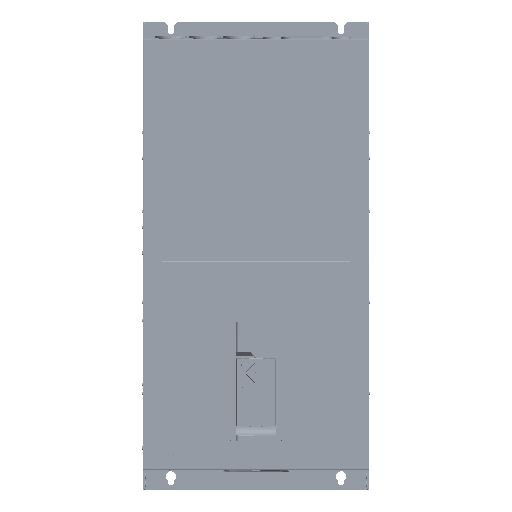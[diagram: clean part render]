
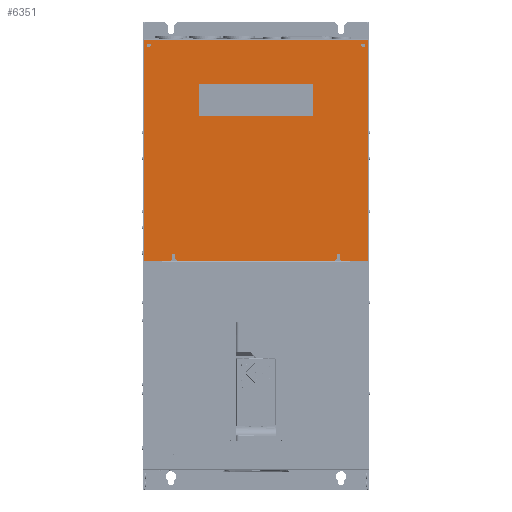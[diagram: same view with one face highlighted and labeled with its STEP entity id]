
A CAD part, top view. The second image highlights one B-rep face of the part: STEP entity #6351.
In plain terms, the highlighted planar face has unit normal (0, 0, 1).
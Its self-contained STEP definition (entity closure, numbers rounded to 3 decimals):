
#6351=ADVANCED_FACE('',(#34830,#34832,#34834,#34836),#34838,.F.);
#34830=FACE_BOUND('',#34831,.T.);
#34831=EDGE_LOOP('',(#63700,#63701,#63702,#63703,#63704,#63705,#63706,#63707,#63708,
#63709,#63710,#63711,#63712,#63713,#63714,#63715));
#34832=FACE_BOUND('',#34833,.T.);
#34833=EDGE_LOOP('',(#63716,#63717,#63718,#63719));
#34834=FACE_BOUND('',#34835,.T.);
#34835=EDGE_LOOP('',(#63720,#63721,#63722,#63723));
#34836=FACE_BOUND('',#34837,.T.);
#34837=EDGE_LOOP('',(#63724,#63725,#63726,#63727));
#34838=PLANE('',#34839);
#34839=AXIS2_PLACEMENT_3D('',#34840,#34841,#34842);
#34840=CARTESIAN_POINT('',(0.,186.75,345.5));
#34841=DIRECTION('',(0.,0.,-1.));
#34842=DIRECTION('',(-1.,0.,0.));
#63700=ORIENTED_EDGE('',*,*,#84925,.T.);
#63701=ORIENTED_EDGE('',*,*,#84894,.T.);
#63702=ORIENTED_EDGE('',*,*,#84898,.T.);
#63703=ORIENTED_EDGE('',*,*,#84890,.T.);
#63704=ORIENTED_EDGE('',*,*,#84926,.T.);
#63705=ORIENTED_EDGE('',*,*,#84876,.T.);
#63706=ORIENTED_EDGE('',*,*,#84927,.T.);
#63707=ORIENTED_EDGE('',*,*,#84928,.T.);
#63708=ORIENTED_EDGE('',*,*,#84878,.T.);
#63709=ORIENTED_EDGE('',*,*,#84871,.T.);
#63710=ORIENTED_EDGE('',*,*,#84852,.T.);
#63711=ORIENTED_EDGE('',*,*,#84840,.T.);
#63712=ORIENTED_EDGE('',*,*,#84884,.T.);
#63713=ORIENTED_EDGE('',*,*,#84929,.T.);
#63714=ORIENTED_EDGE('',*,*,#84930,.T.);
#63715=ORIENTED_EDGE('',*,*,#84888,.T.);
#63716=ORIENTED_EDGE('',*,*,#84931,.F.);
#63717=ORIENTED_EDGE('',*,*,#84932,.F.);
#63718=ORIENTED_EDGE('',*,*,#84921,.F.);
#63719=ORIENTED_EDGE('',*,*,#84933,.F.);
#63720=ORIENTED_EDGE('',*,*,#84934,.T.);
#63721=ORIENTED_EDGE('',*,*,#84919,.T.);
#63722=ORIENTED_EDGE('',*,*,#84935,.T.);
#63723=ORIENTED_EDGE('',*,*,#84815,.T.);
#63724=ORIENTED_EDGE('',*,*,#84936,.T.);
#63725=ORIENTED_EDGE('',*,*,#84902,.T.);
#63726=ORIENTED_EDGE('',*,*,#84937,.T.);
#63727=ORIENTED_EDGE('',*,*,#84819,.T.);
#84815=EDGE_CURVE('',#102001,#102006,#102008,.T.);
#84819=EDGE_CURVE('',#102009,#102014,#102016,.T.);
#84840=EDGE_CURVE('',#102049,#102051,#102053,.T.);
#84852=EDGE_CURVE('',#102073,#102049,#102074,.T.);
#84871=EDGE_CURVE('',#102105,#102073,#102106,.T.);
#84876=EDGE_CURVE('',#102114,#102112,#102115,.T.);
#84878=EDGE_CURVE('',#102117,#102105,#102118,.T.);
#84884=EDGE_CURVE('',#102051,#102127,#102129,.T.);
#84888=EDGE_CURVE('',#102136,#102134,#102137,.T.);
#84890=EDGE_CURVE('',#102139,#102140,#102141,.T.);
#84894=EDGE_CURVE('',#102147,#102148,#102149,.T.);
#84898=EDGE_CURVE('',#102148,#102139,#102155,.T.);
#84902=EDGE_CURVE('',#102162,#102160,#102163,.T.);
#84919=EDGE_CURVE('',#102187,#102185,#102188,.T.);
#84921=EDGE_CURVE('',#102190,#102191,#102192,.T.);
#84925=EDGE_CURVE('',#102134,#102147,#102198,.T.);
#84926=EDGE_CURVE('',#102140,#102114,#102199,.T.);
#84927=EDGE_CURVE('',#102112,#102200,#102201,.T.);
#84928=EDGE_CURVE('',#102200,#102117,#102202,.T.);
#84929=EDGE_CURVE('',#102127,#102203,#102204,.T.);
#84930=EDGE_CURVE('',#102203,#102136,#102205,.T.);
#84931=EDGE_CURVE('',#102206,#102207,#102208,.T.);
#84932=EDGE_CURVE('',#102191,#102206,#102209,.T.);
#84933=EDGE_CURVE('',#102207,#102190,#102210,.T.);
#84934=EDGE_CURVE('',#102006,#102187,#102211,.T.);
#84935=EDGE_CURVE('',#102185,#102001,#102212,.T.);
#84936=EDGE_CURVE('',#102014,#102162,#102213,.T.);
#84937=EDGE_CURVE('',#102160,#102009,#102214,.T.);
#102001=VERTEX_POINT('',#139035);
#102006=VERTEX_POINT('',#139045);
#102008=CIRCLE('',#139049,2.5);
#102009=VERTEX_POINT('',#139053);
#102014=VERTEX_POINT('',#139063);
#102016=CIRCLE('',#139067,2.5);
#102049=VERTEX_POINT('',#139141);
#102051=VERTEX_POINT('',#139145);
#102053=LINE('',#139150,#139151);
#102073=VERTEX_POINT('',#139194);
#102074=LINE('',#139195,#139196);
#102105=VERTEX_POINT('',#139270);
#102106=LINE('',#139271,#139272);
#102112=VERTEX_POINT('',#139287);
#102114=VERTEX_POINT('',#139291);
#102115=CIRCLE('',#139292,2.75);
#102117=VERTEX_POINT('',#139299);
#102118=LINE('',#139300,#139301);
#102127=VERTEX_POINT('',#139319);
#102129=LINE('',#139323,#139324);
#102134=VERTEX_POINT('',#139335);
#102136=VERTEX_POINT('',#139339);
#102137=CIRCLE('',#139340,2.75);
#102139=VERTEX_POINT('',#139347);
#102140=VERTEX_POINT('',#139348);
#102141=LINE('',#139349,#139350);
#102147=VERTEX_POINT('',#139363);
#102148=VERTEX_POINT('',#139364);
#102149=LINE('',#139365,#139366);
#102155=LINE('',#139379,#139380);
#102160=VERTEX_POINT('',#139391);
#102162=VERTEX_POINT('',#139395);
#102163=CIRCLE('',#139396,2.5);
#102185=VERTEX_POINT('',#139452);
#102187=VERTEX_POINT('',#139456);
#102188=CIRCLE('',#139457,2.5);
#102190=VERTEX_POINT('',#139464);
#102191=VERTEX_POINT('',#139465);
#102192=LINE('',#139466,#139467);
#102198=LINE('',#139480,#139481);
#102199=LINE('',#139483,#139484);
#102200=VERTEX_POINT('',#139486);
#102201=LINE('',#139487,#139488);
#102202=LINE('',#139490,#139491);
#102203=VERTEX_POINT('',#139493);
#102204=LINE('',#139494,#139495);
#102205=LINE('',#139497,#139498);
#102206=VERTEX_POINT('',#139500);
#102207=VERTEX_POINT('',#139501);
#102208=LINE('',#139502,#139503);
#102209=LINE('',#139505,#139506);
#102210=LINE('',#139508,#139509);
#102211=LINE('',#139511,#139512);
#102212=LINE('',#139514,#139515);
#102213=LINE('',#139517,#139518);
#102214=LINE('',#139520,#139521);
#139035=CARTESIAN_POINT('',(-189.75,368.,345.5));
#139045=CARTESIAN_POINT('',(-189.75,373.,345.5));
#139049=AXIS2_PLACEMENT_3D('',#139050,#139051,#139052);
#139050=CARTESIAN_POINT('',(-189.75,370.5,345.5));
#139051=DIRECTION('',(0.,0.,-1.));
#139052=DIRECTION('',(0.,-1.,0.));
#139053=CARTESIAN_POINT('',(187.75,368.,345.5));
#139063=CARTESIAN_POINT('',(187.75,373.,345.5));
#139067=AXIS2_PLACEMENT_3D('',#139068,#139069,#139070);
#139068=CARTESIAN_POINT('',(187.75,370.5,345.5));
#139069=DIRECTION('',(0.,0.,-1.));
#139070=DIRECTION('',(0.,-1.,0.));
#139141=CARTESIAN_POINT('',(-198.3,380.8,345.5));
#139145=CARTESIAN_POINT('',(-198.3,-9.,345.5));
#139150=CARTESIAN_POINT('',(-198.3,380.8,345.5));
#139151=VECTOR('',#139152,1.);
#139152=DIRECTION('',(0.,-1.,0.));
#139194=CARTESIAN_POINT('',(198.3,380.8,345.5));
#139195=CARTESIAN_POINT('',(198.3,380.8,345.5));
#139196=VECTOR('',#139197,1.);
#139197=DIRECTION('',(-1.,0.,0.));
#139270=CARTESIAN_POINT('',(198.3,-9.,345.5));
#139271=CARTESIAN_POINT('',(198.3,-9.,345.5));
#139272=VECTOR('',#139273,1.);
#139273=DIRECTION('',(0.,1.,0.));
#139287=CARTESIAN_POINT('',(147.75,1.,345.5));
#139291=CARTESIAN_POINT('',(142.25,1.,345.5));
#139292=AXIS2_PLACEMENT_3D('',#139293,#139294,#139295);
#139293=CARTESIAN_POINT('',(145.,1.,345.5));
#139294=DIRECTION('',(0.,0.,-1.));
#139295=DIRECTION('',(-1.,0.,0.));
#139299=CARTESIAN_POINT('',(150.75,-9.,345.5));
#139300=CARTESIAN_POINT('',(150.75,-9.,345.5));
#139301=VECTOR('',#139302,1.);
#139302=DIRECTION('',(1.,0.,0.));
#139319=CARTESIAN_POINT('',(-150.75,-9.,345.5));
#139323=CARTESIAN_POINT('',(-198.3,-9.,345.5));
#139324=VECTOR('',#139325,1.);
#139325=DIRECTION('',(1.,0.,0.));
#139335=CARTESIAN_POINT('',(-142.25,1.,345.5));
#139339=CARTESIAN_POINT('',(-147.75,1.,345.5));
#139340=AXIS2_PLACEMENT_3D('',#139341,#139342,#139343);
#139341=CARTESIAN_POINT('',(-145.,1.,345.5));
#139342=DIRECTION('',(0.,0.,-1.));
#139343=DIRECTION('',(-1.,0.,0.));
#139347=CARTESIAN_POINT('',(139.25,-9.,345.5));
#139348=CARTESIAN_POINT('',(142.25,-6.,345.5));
#139349=CARTESIAN_POINT('',(139.25,-9.,345.5));
#139350=VECTOR('',#139351,1.);
#139351=DIRECTION('',(0.707,0.707,0.));
#139363=CARTESIAN_POINT('',(-142.25,-6.,345.5));
#139364=CARTESIAN_POINT('',(-139.25,-9.,345.5));
#139365=CARTESIAN_POINT('',(-142.25,-6.,345.5));
#139366=VECTOR('',#139367,1.);
#139367=DIRECTION('',(0.707,-0.707,0.));
#139379=CARTESIAN_POINT('',(-139.25,-9.,345.5));
#139380=VECTOR('',#139381,1.);
#139381=DIRECTION('',(1.,0.,0.));
#139391=CARTESIAN_POINT('',(189.75,368.,345.5));
#139395=CARTESIAN_POINT('',(189.75,373.,345.5));
#139396=AXIS2_PLACEMENT_3D('',#139397,#139398,#139399);
#139397=CARTESIAN_POINT('',(189.75,370.5,345.5));
#139398=DIRECTION('',(0.,0.,-1.));
#139399=DIRECTION('',(0.,1.,0.));
#139452=CARTESIAN_POINT('',(-187.75,368.,345.5));
#139456=CARTESIAN_POINT('',(-187.75,373.,345.5));
#139457=AXIS2_PLACEMENT_3D('',#139458,#139459,#139460);
#139458=CARTESIAN_POINT('',(-187.75,370.5,345.5));
#139459=DIRECTION('',(0.,0.,-1.));
#139460=DIRECTION('',(0.,1.,0.));
#139464=CARTESIAN_POINT('',(100.,302.5,345.5));
#139465=CARTESIAN_POINT('',(-100.,302.5,345.5));
#139466=CARTESIAN_POINT('',(100.,302.5,345.5));
#139467=VECTOR('',#139468,1.);
#139468=DIRECTION('',(-1.,0.,0.));
#139480=CARTESIAN_POINT('',(-142.25,1.,345.5));
#139481=VECTOR('',#139482,1.);
#139482=DIRECTION('',(0.,-1.,0.));
#139483=CARTESIAN_POINT('',(142.25,-6.,345.5));
#139484=VECTOR('',#139485,1.);
#139485=DIRECTION('',(0.,1.,0.));
#139486=CARTESIAN_POINT('',(147.75,-6.,345.5));
#139487=CARTESIAN_POINT('',(147.75,1.,345.5));
#139488=VECTOR('',#139489,1.);
#139489=DIRECTION('',(0.,-1.,0.));
#139490=CARTESIAN_POINT('',(147.75,-6.,345.5));
#139491=VECTOR('',#139492,1.);
#139492=DIRECTION('',(0.707,-0.707,0.));
#139493=CARTESIAN_POINT('',(-147.75,-6.,345.5));
#139494=CARTESIAN_POINT('',(-150.75,-9.,345.5));
#139495=VECTOR('',#139496,1.);
#139496=DIRECTION('',(0.707,0.707,0.));
#139497=CARTESIAN_POINT('',(-147.75,-6.,345.5));
#139498=VECTOR('',#139499,1.);
#139499=DIRECTION('',(0.,1.,0.));
#139500=CARTESIAN_POINT('',(-100.,245.5,345.5));
#139501=CARTESIAN_POINT('',(100.,245.5,345.5));
#139502=CARTESIAN_POINT('',(-100.,245.5,345.5));
#139503=VECTOR('',#139504,1.);
#139504=DIRECTION('',(1.,0.,0.));
#139505=CARTESIAN_POINT('',(-100.,302.5,345.5));
#139506=VECTOR('',#139507,1.);
#139507=DIRECTION('',(0.,-1.,0.));
#139508=CARTESIAN_POINT('',(100.,245.5,345.5));
#139509=VECTOR('',#139510,1.);
#139510=DIRECTION('',(0.,1.,0.));
#139511=CARTESIAN_POINT('',(-189.75,373.,345.5));
#139512=VECTOR('',#139513,1.);
#139513=DIRECTION('',(1.,0.,0.));
#139514=CARTESIAN_POINT('',(-187.75,368.,345.5));
#139515=VECTOR('',#139516,1.);
#139516=DIRECTION('',(-1.,0.,0.));
#139517=CARTESIAN_POINT('',(187.75,373.,345.5));
#139518=VECTOR('',#139519,1.);
#139519=DIRECTION('',(1.,0.,0.));
#139520=CARTESIAN_POINT('',(189.75,368.,345.5));
#139521=VECTOR('',#139522,1.);
#139522=DIRECTION('',(-1.,0.,0.));
